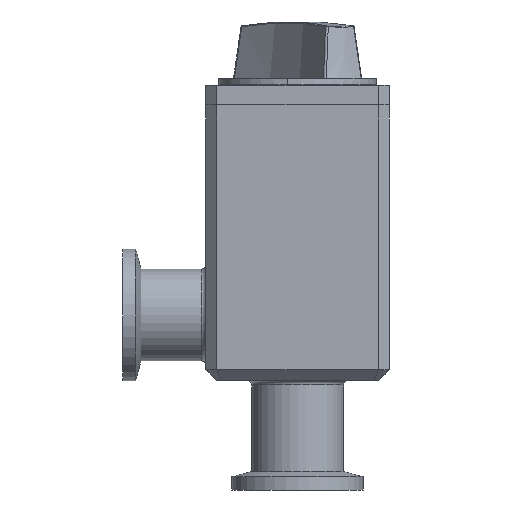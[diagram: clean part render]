
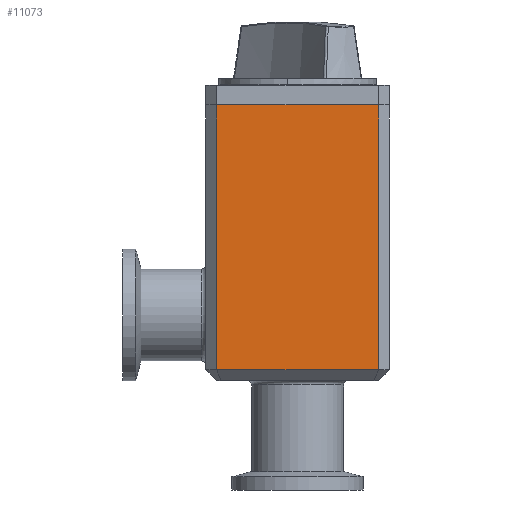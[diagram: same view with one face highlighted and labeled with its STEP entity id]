
A CAD part, front view. The second image highlights one B-rep face of the part: STEP entity #11073.
In plain terms, the highlighted planar face has unit normal (0, -1, 0).
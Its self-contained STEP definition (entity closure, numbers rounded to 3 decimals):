
#866 = DIRECTION ( 'NONE',  ( 1., 0., 0. ) ) ;
#1279 = ORIENTED_EDGE ( 'NONE', *, *, #10077, .T. ) ;
#3329 = EDGE_CURVE ( 'NONE', #3364, #13245, #16147, .T. ) ;
#3364 = VERTEX_POINT ( 'NONE', #14647 ) ;
#4560 = CARTESIAN_POINT ( 'NONE',  ( -21., -21., 63. ) ) ;
#4636 = ORIENTED_EDGE ( 'NONE', *, *, #8447, .F. ) ;
#4925 = DIRECTION ( 'NONE',  ( 0., 1., 0. ) ) ;
#5462 = VECTOR ( 'NONE', #10998, 1000. ) ;
#5573 = VECTOR ( 'NONE', #23713, 1000. ) ;
#6131 = ORIENTED_EDGE ( 'NONE', *, *, #3329, .T. ) ;
#6332 = CARTESIAN_POINT ( 'NONE',  ( 14.964, -21., 2.5 ) ) ;
#6795 = DIRECTION ( 'NONE',  ( 0., 0., 1. ) ) ;
#6860 = LINE ( 'NONE', #10343, #9128 ) ;
#8447 = EDGE_CURVE ( 'NONE', #3364, #16393, #11244, .T. ) ;
#8618 = VERTEX_POINT ( 'NONE', #19668 ) ;
#8679 = CARTESIAN_POINT ( 'NONE',  ( -18.5, -21., 63. ) ) ;
#9128 = VECTOR ( 'NONE', #12335, 1000. ) ;
#10077 = EDGE_CURVE ( 'NONE', #13245, #8618, #23461, .T. ) ;
#10343 = CARTESIAN_POINT ( 'NONE',  ( 18.5, -21., 63. ) ) ;
#10868 = CARTESIAN_POINT ( 'NONE',  ( -21., -21., 63. ) ) ;
#10998 = DIRECTION ( 'NONE',  ( 1., 0., 0. ) ) ;
#11073 = ADVANCED_FACE ( 'NONE', ( #19838 ), #21579, .F. ) ;
#11244 = LINE ( 'NONE', #10868, #5462 ) ;
#11862 = ORIENTED_EDGE ( 'NONE', *, *, #13619, .T. ) ;
#12335 = DIRECTION ( 'NONE',  ( 0., 0., 1. ) ) ;
#13245 = VERTEX_POINT ( 'NONE', #20067 ) ;
#13619 = EDGE_CURVE ( 'NONE', #8618, #16393, #6860, .T. ) ;
#14647 = CARTESIAN_POINT ( 'NONE',  ( -18.5, -21., 63. ) ) ;
#16147 = LINE ( 'NONE', #8679, #5573 ) ;
#16393 = VERTEX_POINT ( 'NONE', #18232 ) ;
#18232 = CARTESIAN_POINT ( 'NONE',  ( 18.5, -21., 63. ) ) ;
#19668 = CARTESIAN_POINT ( 'NONE',  ( 18.5, -21., 2.5 ) ) ;
#19838 = FACE_OUTER_BOUND ( 'NONE', #23406, .T. ) ;
#20067 = CARTESIAN_POINT ( 'NONE',  ( -18.5, -21., 2.5 ) ) ;
#20983 = AXIS2_PLACEMENT_3D ( 'NONE', #4560, #4925, #6795 ) ;
#21579 = PLANE ( 'NONE',  #20983 ) ;
#22939 = VECTOR ( 'NONE', #866, 1000. ) ;
#23406 = EDGE_LOOP ( 'NONE', ( #6131, #1279, #11862, #4636 ) ) ;
#23461 = LINE ( 'NONE', #6332, #22939 ) ;
#23713 = DIRECTION ( 'NONE',  ( 0., 0., -1. ) ) ;
